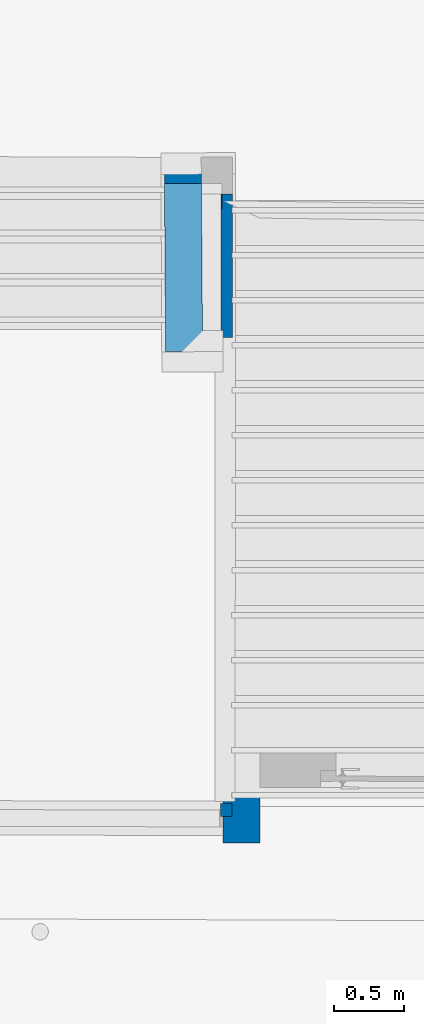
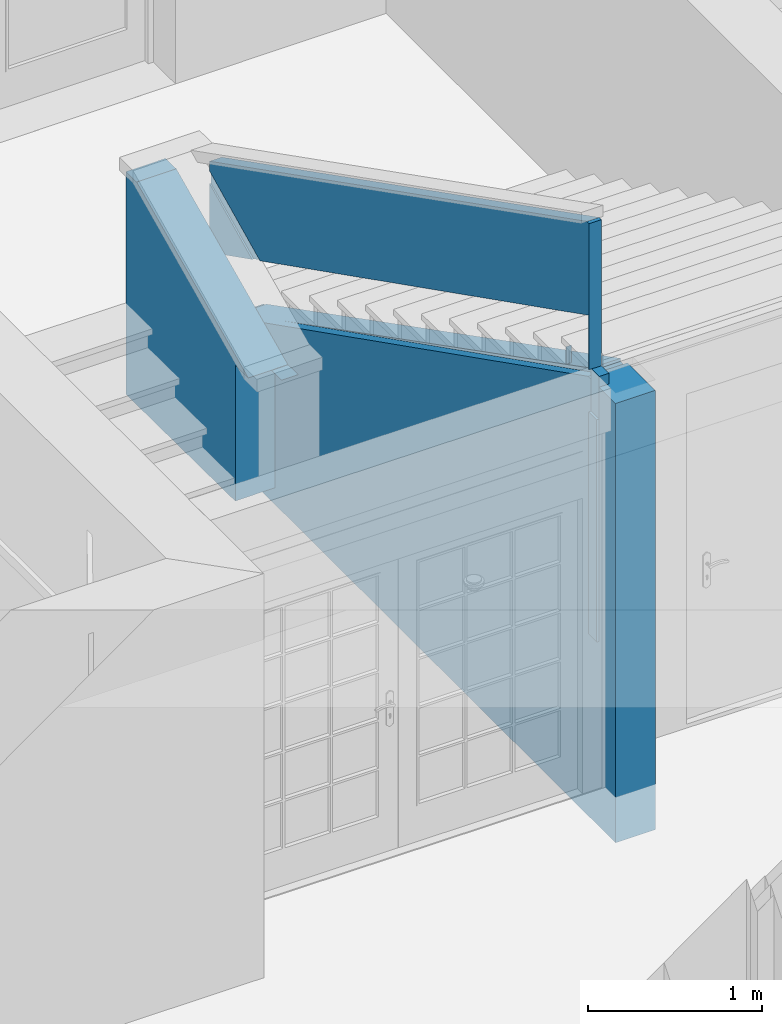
# One storey, part 91 of 196: 3 walls.
"""IFC2X3 building model written with IfcOpenShell, lengths in metres."""

import ifcopenshell
import ifcopenshell.guid

model = None  # the IFC model being written
_history = None  # IfcOwnerHistory: only IFC2X3 demands one
_inside = {}  # id of a spatial element -> (the spatial element, [elements in it])
_under = {}  # id of a project, library or spatial element -> (it, [spatial elements below it])
_declared = {}  # id of a project -> (the project, [libraries it declares])
_typed = {}  # id of a type object -> (the type object, [elements of that type])
_made_of = {}  # id of a material, layer set ... -> (it, [elements and type objects made of it])


def new_model(schema):
    """Start an empty IFC model of exactly this schema.

    Asked for "IFC4X3", IfcOpenShell would pick the latest addendum, in which some entities
    have other attributes; the version numbers below select the first issue.
    IFC2X3 requires an IfcOwnerHistory on every rooted entity: one is made here for all.
    """
    global model, _history
    if schema == "IFC4X3":
        model = ifcopenshell.file(schema_version=(4, 3, 0, 0))
    else:
        model = ifcopenshell.file(schema=schema)
    _inside.clear()
    _under.clear()
    _declared.clear()
    _typed.clear()
    _made_of.clear()
    _history = None
    if model.schema == "IFC2X3":
        org = make("IfcOrganization", Name="unknown")
        user = make(
            "IfcPersonAndOrganization",
            ThePerson=make("IfcPerson", FamilyName="unknown"),
            TheOrganization=org,
        )
        app = make(
            "IfcApplication",
            ApplicationDeveloper=org,
            Version="unknown",
            ApplicationFullName="unknown",
            ApplicationIdentifier="unknown",
        )
        _history = make(
            "IfcOwnerHistory",
            OwningUser=user,
            OwningApplication=app,
            ChangeAction="ADDED",
            CreationDate=0,
        )
    return model


def make(cls, **values):
    """One entity of the class cls with the attributes given. An attribute that is None is left unset."""
    return model.create_entity(
        cls, **{name: value for name, value in values.items() if value is not None}
    )


def entity(cls, *values):
    """Any entity or typed value of the class cls, its attributes in the order of the schema. None: left unset."""
    e = model.create_entity(cls)
    for i, value in enumerate(values):
        if value is not None:
            e[i] = value
    return e


def rooted(cls, **values):
    """An entity with a GlobalId (a new one), such as an element, a storey or a relation."""
    return make(cls, GlobalId=ifcopenshell.guid.new(), OwnerHistory=_history, **values)


def si_unit(unit_type, name, prefix=None):
    """IfcSIUnit, for example si_unit("LENGTHUNIT", "METRE", prefix="MILLI")."""
    return make("IfcSIUnit", UnitType=unit_type, Prefix=prefix, Name=name)


def converted_unit(unit_type, name, factor, base, dimensions=None, offset=None):
    """IfcConversionBasedUnit, such as the inch: factor (a typed value) times the base unit."""
    return make(
        "IfcConversionBasedUnit"
        if offset is None
        else "IfcConversionBasedUnitWithOffset",
        ConversionOffset=offset,
        Dimensions=None
        if dimensions is None
        else entity("IfcDimensionalExponents", *dimensions),
        UnitType=unit_type,
        Name=name,
        ConversionFactor=make(
            "IfcMeasureWithUnit", ValueComponent=factor, UnitComponent=base
        ),
    )


def derived_unit(unit_type, elements):
    """IfcDerivedUnit: a product of units, each with its exponent."""
    return make(
        "IfcDerivedUnit",
        Elements=[
            make("IfcDerivedUnitElement", Unit=unit, Exponent=power)
            for unit, power in elements
        ],
        UnitType=unit_type,
    )


def money_unit(currency):
    """IfcMonetaryUnit."""
    return make("IfcMonetaryUnit", Currency=currency)


def assignment(units):
    """IfcUnitAssignment: the units of a project."""
    return None if units is None else make("IfcUnitAssignment", Units=units)


def point(xyz):
    """IfcCartesianPoint."""
    return None if xyz is None else make("IfcCartesianPoint", Coordinates=xyz)


def direction(xyz):
    """IfcDirection."""
    return None if xyz is None else make("IfcDirection", DirectionRatios=xyz)


def frame(location, z_axis=None, x_axis=None):
    """IfcAxis2Placement3D, a coordinate frame: its origin and axes. An axis left out is left unset."""
    return make(
        "IfcAxis2Placement3D",
        Location=point(location),
        Axis=direction(z_axis),
        RefDirection=direction(x_axis),
    )


def origin_with_axes():
    """The frame at (0, 0, 0) with the z axis (0, 0, 1) and the x axis (1, 0, 0) written out."""
    return frame((0.0, 0.0, 0.0), z_axis=(0.0, 0.0, 1.0), x_axis=(1.0, 0.0, 0.0))


def place(relative_to, where):
    """IfcLocalPlacement: puts the frame where relative to a parent placement (None: the world)."""
    return make(
        "IfcLocalPlacement", PlacementRelTo=relative_to, RelativePlacement=where
    )


def context(
    kind, dimensions, precision=None, world=None, true_north=None, identifier=None
):
    """IfcGeometricRepresentationContext, for example the 3D "Model" context."""
    return make(
        "IfcGeometricRepresentationContext",
        ContextIdentifier=identifier,
        ContextType=kind,
        CoordinateSpaceDimension=dimensions,
        Precision=precision,
        WorldCoordinateSystem=world,
        TrueNorth=true_north,
    )


def subcontext(parent, identifier, kind, view, scale=None):
    """IfcGeometricRepresentationSubContext, for example "Body" below "Model"."""
    return make(
        "IfcGeometricRepresentationSubContext",
        ContextIdentifier=identifier,
        ContextType=kind,
        ParentContext=parent,
        TargetScale=scale,
        TargetView=view,
    )


def project(units=None, contexts=None):
    """IfcProject with its units and contexts."""
    return rooted(
        "IfcProject",
        Name="project",
        RepresentationContexts=contexts,
        UnitsInContext=assignment(units),
    )


def spatial(cls, under=None, at=None, **own):
    """A site, building, storey or space (cls), placed at a placement, below another one or the project."""
    s = rooted(cls, ObjectPlacement=at, **own)
    if under is not None:
        _under.setdefault(under.id(), (under, []))[1].append(s)
    return s


def polyline(points):
    """IfcPolyline through the points."""
    return make("IfcPolyline", Points=[point(p) for p in points])


def outline(outer, holes=None, kind="AREA"):
    """IfcArbitraryClosedProfileDef: a profile drawn as a closed curve; with holes, ...WithVoids."""
    if holes is None:
        return make("IfcArbitraryClosedProfileDef", ProfileType=kind, OuterCurve=outer)
    return make(
        "IfcArbitraryProfileDefWithVoids",
        ProfileType=kind,
        OuterCurve=outer,
        InnerCurves=holes,
    )


def extrude(swept, where, along, depth):
    """IfcExtrudedAreaSolid: the profile swept, set in the frame where, extruded along a direction by depth."""
    return make(
        "IfcExtrudedAreaSolid",
        SweptArea=swept,
        Position=where,
        ExtrudedDirection=direction(along),
        Depth=depth,
    )


def boolean(op, a, b):
    """IfcBooleanResult of two solids."""
    return make("IfcBooleanResult", Operator=op, FirstOperand=a, SecondOperand=b)


def faces_of(points, faces, orient=None, outer=None):
    """IfcFace entities. A face is a list of loops; a loop is a list of indices into points, from 0.

    orient and outer hold one flag for each loop. By default every Orientation is true, the
    first loop of a face is its IfcFaceOuterBound and the others are IfcFaceBound.
    """
    made = []
    for i, loops in enumerate(faces):
        bounds = []
        for j, loop in enumerate(loops):
            is_outer = j == 0 if outer is None else outer[i][j]
            bounds.append(
                make(
                    "IfcFaceOuterBound" if is_outer else "IfcFaceBound",
                    Bound=make("IfcPolyLoop", Polygon=[points[k] for k in loop]),
                    Orientation=True if orient is None else orient[i][j],
                )
            )
        made.append(make("IfcFace", Bounds=bounds))
    return made


def faceted_brep(points, faces, orient=None, outer=None, voids=None):
    """IfcFacetedBrep: a solid bounded by flat faces; with voids (closed shells), ...WithVoids."""
    shared = [point(p) for p in points]
    hull = make("IfcClosedShell", CfsFaces=faces_of(shared, faces, orient, outer))
    if voids is None:
        return make("IfcFacetedBrep", Outer=hull)
    return make(
        "IfcFacetedBrepWithVoids",
        Outer=hull,
        Voids=[
            make(cls, CfsFaces=faces_of(shared, fs, o, b)) for cls, fs, o, b in voids
        ],
    )


def shape(context_of_items, identifier, shape_type, items):
    """IfcShapeRepresentation: the items that make up one representation, for example the "Body"."""
    return make(
        "IfcShapeRepresentation",
        ContextOfItems=context_of_items,
        RepresentationIdentifier=identifier,
        RepresentationType=shape_type,
        Items=items,
    )


def material(Name=None, Category=None):
    """IfcMaterial."""
    return make("IfcMaterial", Name=Name, Category=Category)


def made_of(thing, what):
    """Note that an element or type object is made of a material, layer set ...; save() writes the relation."""
    if what is not None:
        _made_of.setdefault(what.id(), (what, []))[1].append(thing)
    return thing


def type_object(cls, material=None, **own):
    """A type object (cls), such as IfcWallType, which elements share."""
    return made_of(rooted(cls, **own), material)


def element(
    cls,
    number,
    at=None,
    inside=None,
    cuts=None,
    type_object=None,
    material=None,
    context=None,
    identifier="Body",
    shape_type=None,
    held_by="IfcProductDefinitionShape",
    body=None,
    shapes=None,
    **own,
):
    """One element of the class cls, such as IfcWall. Its Tag is "e" and its number.

    at: its placement. inside: the storey or other place that contains it. cuts: it is an
    opening in that element (IfcRelVoidsElement). A single representation is given by context,
    identifier, shape_type and body (its items); several are given by shapes. held_by: the class
    of the entity that holds the representations. save() writes the other relations.
    """
    e = rooted(cls, Tag="e%d" % number, ObjectPlacement=at, **own)
    if body is not None:
        shapes = [shape(context, identifier, shape_type, body)]
    if shapes is not None:
        e.Representation = make(held_by, Representations=shapes)
    if inside is not None:
        _inside.setdefault(inside.id(), (inside, []))[1].append(e)
    if cuts is not None:
        rooted(
            "IfcRelVoidsElement", RelatingBuildingElement=cuts, RelatedOpeningElement=e
        )
    if type_object is not None:
        _typed.setdefault(type_object.id(), (type_object, []))[1].append(e)
    return made_of(e, material)


def aggregate(whole, parts):
    """IfcRelAggregates: a whole, such as a stair, and the parts it consists of."""
    return rooted("IfcRelAggregates", RelatingObject=whole, RelatedObjects=parts)


def save(model, path):
    """Write the relations noted so far, then the file.

    IfcRelAggregates (storeys below a building ...), IfcRelContainedInSpatialStructure (elements
    in a storey), IfcRelDefinesByType, IfcRelAssociatesMaterial and IfcRelDeclares: one each for
    every whole, place, type object, material and project.
    """
    for whole, parts in _under.values():
        aggregate(whole, parts)
    for where, things in _inside.values():
        rooted(
            "IfcRelContainedInSpatialStructure",
            RelatedElements=things,
            RelatingStructure=where,
        )
    for kind, things in _typed.values():
        rooted("IfcRelDefinesByType", RelatedObjects=things, RelatingType=kind)
    for what, things in _made_of.values():
        rooted("IfcRelAssociatesMaterial", RelatedObjects=things, RelatingMaterial=what)
    for by, libraries in _declared.values():
        rooted("IfcRelDeclares", RelatingContext=by, RelatedDefinitions=libraries)
    model.write(path)


model = new_model("IFC2X3")

# Units and contexts
model_context = context("Model", 3, precision=1e-05, world=origin_with_axes(), true_north=direction((0.0, 1.0)))
body_context = subcontext(model_context, "Body", "Model", "MODEL_VIEW")
ifc_project = project(units=[si_unit("LENGTHUNIT", "METRE"), si_unit("AREAUNIT", "SQUARE_METRE"), si_unit("VOLUMEUNIT", "CUBIC_METRE"), converted_unit("PLANEANGLEUNIT", "DEGREE", entity("IfcPlaneAngleMeasure", 0.0174532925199), si_unit("PLANEANGLEUNIT", "RADIAN"), dimensions=[0, 0, 0, 0, 0, 0, 0]), money_unit("EUR"), converted_unit("TIMEUNIT", "Year", entity("IfcTimeMeasure", 31556926.0), si_unit("TIMEUNIT", "SECOND"), dimensions=[0, 0, 1, 0, 0, 0, 0]), si_unit("MASSUNIT", "GRAM", prefix="KILO"), si_unit("THERMODYNAMICTEMPERATUREUNIT", "DEGREE_CELSIUS"), si_unit("LUMINOUSINTENSITYUNIT", "LUMEN"), si_unit("ENERGYUNIT", "JOULE", prefix="MEGA"), derived_unit("THERMALCONDUCTANCEUNIT", [(si_unit("POWERUNIT", "WATT"), 1), (si_unit("LENGTHUNIT", "METRE"), -1), (si_unit("THERMODYNAMICTEMPERATUREUNIT", "KELVIN"), -1)]), derived_unit("SPECIFICHEATCAPACITYUNIT", [(si_unit("ENERGYUNIT", "JOULE"), 1), (si_unit("MASSUNIT", "GRAM", prefix="KILO"), -1), (si_unit("THERMODYNAMICTEMPERATUREUNIT", "KELVIN"), -1)]), derived_unit("MASSDENSITYUNIT", [(si_unit("MASSUNIT", "GRAM", prefix="KILO"), 1), (si_unit("VOLUMEUNIT", "CUBIC_METRE"), -1)])], contexts=[model_context])

# Site, building, storey
site_placement = place(None, origin_with_axes())
site = spatial("IfcSite", under=ifc_project, at=site_placement, Name="Gelände", CompositionType="ELEMENT")
building_placement = place(site_placement, origin_with_axes())
building = spatial("IfcBuilding", under=site, at=building_placement, Name="Gebäude", CompositionType="ELEMENT")
storey_placement = place(building_placement, frame((0.0, 0.0, -3.0), z_axis=(0.0, 0.0, 1.0), x_axis=(1.0, 0.0, 0.0)))
storey = spatial("IfcBuildingStorey", under=building, at=storey_placement, Name="KELLERGESCHOSS", CompositionType="ELEMENT", Elevation=-3.0)

# Walls
ifc_material_1 = material(Name="05_ALLGEMEIN - TRAGENDE BAUTEILE")
wall_type_1 = type_object("IfcWallType", Name="05_ALLGEMEIN - TRAGENDE BAUTEILE 264", PredefinedType="ELEMENTEDWALL")
wall_1_placement = place(storey_placement, frame((-6.92928317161, 19.8210692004, -0.36), z_axis=(0.0, 0.0, 1.0), x_axis=(0.0, 1.0, 0.0)))
element("IfcWall", 1, at=wall_1_placement, inside=storey, type_object=wall_type_1, material=ifc_material_1, Name="Wand-038", ObjectType="ELEMENTEDWALL", context=body_context, shape_type="CSG", body=[
    boolean("DIFFERENCE", boolean("DIFFERENCE", boolean("DIFFERENCE", extrude(outline(polyline([(0.0, 0.0), (4.58134705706, 0.0), (4.58134705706, 0.263583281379), (0.0, 0.263583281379), (0.0, 0.0)])), origin_with_axes(), (0.0, 0.0, 1.0), 3.07520246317), faceted_brep([(3.35965650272, 0.263583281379, 1.27333389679), (3.35965650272, 0.263583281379, 1.36236621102), (3.50465704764, 0.263583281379, 1.36236910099), (3.50465704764, 0.263583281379, 1.27333678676), (3.35965837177, 0.262901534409, 1.27333885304), (3.35965837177, 0.262901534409, 1.36237116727), (3.50465782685, 0.263299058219, 1.36237116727), (3.50465782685, 0.263299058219, 1.27333885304)], [[[0, 1, 2, 3]], [[1, 0, 4, 5]], [[2, 1, 5, 6]], [[3, 2, 6, 7]], [[0, 3, 7, 4]], [[4, 7, 6, 5]]])), faceted_brep([(0.297759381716, 0.263147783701, 3.07520246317), (0.29776015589, 0.263583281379, 3.07520246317), (0.0527778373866, 0.263583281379, 3.07520246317), (0.297759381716, 0.263147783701, 2.8524074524), (0.29776015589, 0.263583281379, 2.8524074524), (0.0527778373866, 0.263583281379, 2.8524074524)], [[[0, 1, 2]], [[1, 0, 3, 4]], [[5, 2, 1, 4]], [[0, 2, 5, 3]], [[5, 4, 3]]])), faceted_brep([(4.45778222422, 0.0, 0.975573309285), (4.45778222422, 0.0, 0.954859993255), (4.49389862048, 0.0, 0.954859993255), (4.49389862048, 0.0, 0.0), (4.58134705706, 0.0, 0.0), (4.58134705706, 0.0, 3.07520246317), (0.318987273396, 0.0, 3.07520246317), (0.318987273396, 0.0, 3.03714285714), (0.396712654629, 0.0, 3.03714285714), (0.396712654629, 0.0, 3.05884621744), (0.439020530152, 0.0, 3.03714285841), (0.640184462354, 0.0, 2.93394852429), (0.678514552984, 0.0, 2.91428571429), (0.756489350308, 0.0, 2.87428571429), (0.961381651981, 0.0, 2.76917877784), (0.99598337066, 0.0, 2.75142857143), (1.07395816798, 0.0, 2.71142857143), (1.282578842, 0.0, 2.60440903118), (1.31345218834, 0.0, 2.58857142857), (1.39142698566, 0.0, 2.54857142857), (1.60377603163, 0.0, 2.43963928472), (1.63092100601, 0.0, 2.42571428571), (1.70889580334, 0.0, 2.38571428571), (1.92497322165, 0.0, 2.27486953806), (1.94838982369, 0.0, 2.26285714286), (2.02636462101, 0.0, 2.22285714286), (2.24617041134, 0.0, 2.11009979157), (2.26585864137, 0.0, 2.1), (2.34383343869, 0.0, 2.06), (2.56736760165, 0.0, 1.94533004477), (2.58332745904, 0.0, 1.93714285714), (2.66130225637, 0.0, 1.89714285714), (2.88856479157, 0.0, 1.78056029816), (2.90079627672, 0.0, 1.77428571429), (2.97877107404, 0.0, 1.73428571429), (3.20976198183, 0.0, 1.61579055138), (3.21826509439, 0.0, 1.61142857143), (3.29623989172, 0.0, 1.57142857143), (3.53095917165, 0.0, 1.45102080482), (3.53573391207, 0.0, 1.44857142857), (3.6137087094, 0.0, 1.40857142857), (3.85215636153, 0.0, 1.28625105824), (3.85320270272, 0.0, 1.28571429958), (3.93117746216, 0.0, 1.24571431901), (4.17335355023, 0.0, 1.12148131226), (4.24864631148, 0.0, 1.08285715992), (4.45778222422, 0.198841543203, 0.976657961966), (4.45778222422, 0.198841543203, 0.980569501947), (4.45778222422, 0.263583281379, 0.980581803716), (4.45778222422, 0.263583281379, 0.954859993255), (4.50867719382, 0.263583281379, 0.954859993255), (4.5086518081, 0.196063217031, 0.954859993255), (4.49389862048, 0.196092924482, 0.954859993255), (4.49389862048, 0.196092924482, 0.0), (4.58043472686, 0.195918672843, 0.0), (4.58134705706, 0.263583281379, 0.0), (4.58134705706, 0.263583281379, 0.918133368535), (4.58134705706, 0.263583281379, 3.07520246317), (0.31906171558, 0.197439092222, 3.07520246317), (0.313219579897, 0.263583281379, 3.07520246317), (0.313194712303, 0.197441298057, 3.07520246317), (0.31906171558, 0.197439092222, 3.07223733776), (0.319062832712, 0.200402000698, 3.07223733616), (0.319062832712, 0.200402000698, 3.03714285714), (0.359062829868, 0.20038691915, 3.03714285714), (0.388503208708, 0.200375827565, 3.03714285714), (0.388502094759, 0.19741298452, 3.03714285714), (0.397776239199, 0.197409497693, 3.03714285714), (0.397776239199, 0.197409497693, 3.05937745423), (0.441119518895, 0.197393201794, 3.0371428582), (0.640258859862, 0.197318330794, 2.93498670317), (0.680258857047, 0.197303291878, 2.914467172), (0.680245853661, 0.16281509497, 2.91428571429), (0.680612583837, 0.197303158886, 2.91428571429), (0.758587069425, 0.197273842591, 2.87428571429), (0.961456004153, 0.197197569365, 2.77021632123), (0.998080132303, 0.197183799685, 2.75142857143), (1.07605461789, 0.197154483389, 2.71142857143), (1.28265314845, 0.197076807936, 2.60544593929), (1.31554768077, 0.197064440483, 2.58857142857), (1.39352216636, 0.197035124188, 2.54857142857), (1.60385029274, 0.196956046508, 2.44067555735), (1.63301522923, 0.196945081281, 2.42571428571), (1.71098971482, 0.196915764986, 2.38571428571), (1.92504743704, 0.196835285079, 2.27590517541), (1.9504827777, 0.196825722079, 2.26285714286), (2.02845726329, 0.196796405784, 2.22285714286), (2.24624458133, 0.19671452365, 2.11113479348), (2.26795032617, 0.196706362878, 2.1), (2.34592481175, 0.196677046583, 2.06), (2.56744172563, 0.196593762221, 1.94636441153), (2.58541787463, 0.196587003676, 1.93714285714), (2.66339236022, 0.196557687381, 1.89714285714), (2.88863886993, 0.196473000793, 1.7815940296), (2.9028854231, 0.196467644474, 1.77428571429), (2.98085990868, 0.196438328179, 1.73428571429), (3.20983601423, 0.196352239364, 1.61682364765), (3.22035297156, 0.196348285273, 1.61142857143), (3.29832745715, 0.196318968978, 1.57142857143), (3.53103315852, 0.196231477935, 1.45205326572), (3.53782052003, 0.196228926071, 1.44857142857), (3.61579500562, 0.196199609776, 1.40857142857), (3.85223030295, 0.196110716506, 1.28728288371), (3.85528798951, 0.196109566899, 1.28571432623), (3.93326248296, 0.196080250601, 1.2457143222), (3.94093463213, 0.196077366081, 1.24177859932), (3.94223141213, 0.199035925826, 1.24112950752), (4.17342856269, 0.198948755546, 1.1225280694), (4.21342855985, 0.198933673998, 1.10200853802), (4.25076157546, 0.198924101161, 1.08285716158), (4.2634285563, 0.198914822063, 1.07635912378), (4.2634285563, 0.198914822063, 1.07879392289), (4.25076157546, 0.198924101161, 1.08519569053), (4.21342855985, 0.198933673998, 1.10406342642), (0.359062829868, 0.20038691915, 3.05202173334), (4.58047351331, 0.19879533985, 0.918562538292), (4.5682291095, 0.198800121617, 0.92475073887), (4.5681987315, 0.195943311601, 0.924765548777), (4.5681987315, 0.195943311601, 0.920000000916), (4.58043472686, 0.195918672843, 0.913722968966), (4.58047351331, 0.19879533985, 0.913718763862), (0.680612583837, 0.197303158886, 3.03714285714), (0.680258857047, 0.197303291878, 3.03714285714), (0.680245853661, 0.16281509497, 3.03714285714), (4.5682291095, 0.198800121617, 0.920000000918)], [[[0, 1, 2, 3, 4, 5, 6, 7, 8, 9, 10, 11, 12, 13, 14, 15, 16, 17, 18, 19, 20, 21, 22, 23, 24, 25, 26, 27, 28, 29, 30, 31, 32, 33, 34, 35, 36, 37, 38, 39, 40, 41, 42, 43, 44, 45]], [[1, 0, 46, 47, 48, 49]], [[2, 1, 49, 50, 51, 52]], [[3, 2, 52, 53]], [[54, 55, 4, 3, 53]], [[55, 56, 57, 5, 4]], [[58, 6, 5, 57, 59, 60]], [[7, 6, 58, 61, 62, 63]], [[8, 7, 63, 64, 65, 66, 67]], [[9, 8, 67, 68]], [[10, 9, 68, 69]], [[11, 10, 69, 70]], [[12, 11, 70, 71, 72]], [[13, 12, 72, 73, 74]], [[14, 13, 74, 75]], [[15, 14, 75, 76]], [[16, 15, 76, 77]], [[17, 16, 77, 78]], [[18, 17, 78, 79]], [[19, 18, 79, 80]], [[20, 19, 80, 81]], [[21, 20, 81, 82]], [[22, 21, 82, 83]], [[23, 22, 83, 84]], [[24, 23, 84, 85]], [[25, 24, 85, 86]], [[26, 25, 86, 87]], [[27, 26, 87, 88]], [[28, 27, 88, 89]], [[29, 28, 89, 90]], [[30, 29, 90, 91]], [[31, 30, 91, 92]], [[32, 31, 92, 93]], [[33, 32, 93, 94]], [[34, 33, 94, 95]], [[35, 34, 95, 96]], [[36, 35, 96, 97]], [[37, 36, 97, 98]], [[38, 37, 98, 99]], [[39, 38, 99, 100]], [[40, 39, 100, 101]], [[41, 40, 101, 102]], [[42, 41, 102, 103]], [[43, 42, 103, 104]], [[44, 43, 104, 105, 106, 107]], [[45, 44, 107, 108, 109]], [[0, 45, 109, 110, 46]], [[110, 111, 47, 46]], [[60, 59, 48, 47, 111, 112, 113, 106, 105, 66, 65, 114, 62, 61]], [[48, 59, 57, 56, 50, 49]], [[50, 56, 115, 116, 117, 51]], [[54, 53, 52, 51, 117, 118, 119]], [[55, 54, 119, 120, 115, 56]], [[58, 60, 61]], [[64, 63, 62, 114]], [[64, 114, 65]], [[103, 102, 101, 100, 99, 98, 97, 96, 95, 94, 93, 92, 91, 90, 89, 88, 87, 86, 85, 84, 83, 82, 81, 80, 79, 78, 77, 76, 75, 74, 73, 121, 122, 71, 70, 69, 68, 67, 66, 105, 104]], [[123, 72, 71, 122]], [[72, 123, 121, 73]], [[108, 107, 106, 113]], [[109, 108, 113, 112]], [[110, 109, 112, 111]], [[124, 116, 115, 120]], [[124, 118, 117, 116]], [[124, 120, 119, 118]], [[123, 122, 121]]])),
])
wall_2_placement = place(storey_placement, frame((-7.59983990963, 23.2094093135, -0.1), z_axis=(0.0, 0.0, 1.0), x_axis=(-0.00729003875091, 0.999973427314, 0.0)))
element("IfcWall", 2, at=wall_2_placement, inside=storey, type_object=wall_type_1, material=ifc_material_1, Name="Wand-039", ObjectType="ELEMENTEDWALL", context=body_context, shape_type="CSG", body=[
    boolean("DIFFERENCE", extrude(outline(polyline([(0.0, -0.263583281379), (1.50273640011, -0.263583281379), (1.50273640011, 0.0), (0.0, 0.0), (0.0, -0.263583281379)])), origin_with_axes(), (0.0, 0.0, 1.0), 1.70745696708), faceted_brep([(1.38114913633, 0.0, 1.61872908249), (1.38114913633, 0.0, 1.6187089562), (0.116815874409, 0.0, 1.01149196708), (0.263587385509, 0.0, 1.01149196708), (0.263587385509, 0.0, 0.06), (1.50273640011, 0.0, 0.06), (1.50273640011, 0.0, 0.0), (0.0, 0.0, 0.0), (0.0, 0.0, 1.70745696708), (1.50273640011, 0.0, 1.70745696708), (1.50273640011, 0.0, 1.61872880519), (1.38042240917, -0.263583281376, 1.61894711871), (1.38042240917, -0.263583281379, 1.6187089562), (0.116089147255, -0.263583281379, 1.01149196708), (0.265058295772, -0.263583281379, 1.01149196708), (0.265058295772, -0.263583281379, 0.06), (1.50239406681, -0.263583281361, 0.06), (1.50273640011, -0.263583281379, 1.70745696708), (1.50273640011, -0.263583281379, 0.0), (0.0, -0.263583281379, 0.0), (0.0, -0.263583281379, 1.01149196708), (0.0, -0.15353127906, 1.01149196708), (0.0, -0.263583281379, 1.01229202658), (0.0, -0.263583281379, 1.70745696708), (1.50239408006, -0.263583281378, 1.61894684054), (0.113927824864, -0.263583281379, 1.01149196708), (0.113927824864, -0.263583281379, 1.01228825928), (0.114229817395, -0.154050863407, 1.01149196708)], [[[0, 1, 2, 3, 4, 5, 6, 7, 8, 9, 10]], [[11, 12, 1, 0]], [[12, 13, 2, 1]], [[13, 14, 3, 2]], [[14, 15, 4, 3]], [[15, 16, 5, 4]], [[5, 10, 9, 17, 18, 6]], [[18, 19, 7, 6]], [[20, 21, 22, 23, 8, 7, 19]], [[8, 23, 17, 9]], [[24, 11, 0, 10]], [[25, 20, 19, 18, 17, 23, 22, 26], [15, 14, 13, 12, 11, 24, 16]], [[16, 24, 10, 5]], [[21, 20, 25, 27]], [[26, 22, 21, 27]], [[25, 26, 27]]])),
])
ifc_material_2 = material(Name="01_ALLGEMEIN - BAUTEIL")
wall_type_2 = type_object("IfcWallType", Name="01_ALLGEMEIN - BAUTEIL 82", PredefinedType="ELEMENTEDWALL")
wall_3_placement = place(storey_placement, frame((-7.12503113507, 24.715016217, 0.936490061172), z_axis=(0.0, 0.0, 1.0), x_axis=(-0.000374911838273, -0.999999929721, 0.0)))
element("IfcWall", 3, at=wall_3_placement, inside=storey, type_object=wall_type_2, material=ifc_material_2, Name="Wand-038", ObjectType="ELEMENTEDWALL", context=body_context, shape_type="CSG", body=[
    boolean("DIFFERENCE", extrude(outline(polyline([(0.0, -0.0820226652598), (4.70575181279, -0.0820226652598), (4.70575181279, 0.0), (0.0, 0.0), (0.0, -0.0820226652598)])), origin_with_axes(), (0.0, 0.0, 1.0), 2.87656200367), faceted_brep([(0.262313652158, -0.0820226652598, 0.670966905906), (4.59330953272, -0.0820226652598, 2.87656200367), (0.0, -0.0820226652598, 2.87656200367), (0.0, -0.0820226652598, 0.0), (4.61407640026, -0.0820226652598, 0.0), (4.61407640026, -0.0820226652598, 1.55591739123), (4.70572106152, -0.0820226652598, 1.55591739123), (4.70572106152, -0.0820226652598, 0.0), (4.70575181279, -0.0820226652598, 0.0), (4.70575181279, -0.0820226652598, 2.87656200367), (4.61870104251, -0.0820226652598, 2.87656200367), (4.61870104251, -0.0820226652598, 1.85351183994), (4.61407640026, -0.0820226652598, 1.85351183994), (4.61407640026, -0.0820226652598, 2.23202624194), (0.841855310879, -0.0820226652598, 0.325583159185), (0.264110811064, -0.0820226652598, 0.603052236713), (0.264110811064, -0.0820226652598, 0.670966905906), (0.751815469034, -0.0820226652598, 0.280077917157), (0.264110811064, -0.0820226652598, 0.0335968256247), (0.264110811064, -0.0820226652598, 0.514304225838), (0.262313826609, 0.0, 0.670966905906), (4.59330970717, 0.0, 2.87656200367), (0.0, 0.0, 2.87656200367), (0.0, 0.0, 0.0), (4.61407648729, 0.0, 0.0), (4.61407648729, 0.0, 2.23202624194), (4.61407641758, -0.0657017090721, 1.85351183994), (4.61407641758, -0.0657017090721, 1.55591739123), (4.70572106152, -0.065830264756, 1.55591739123), (4.70572106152, 0.0, 1.85351183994), (4.70572106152, 0.0, 0.0), (4.70572106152, -0.065830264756, 1.85351183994), (4.70575181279, 0.0, 0.0), (4.70575181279, 0.0, 2.87656200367), (4.61867029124, 0.0, 2.87656200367), (4.61867029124, 0.0, 1.85351183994), (4.61869492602, -0.0657081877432, 1.85351183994), (0.263588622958, 0.0, 0.0333328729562), (0.751787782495, -0.0704425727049, 0.280063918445), (0.841826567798, -0.070000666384, 0.325568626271), (0.264052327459, -0.0728363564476, 0.603058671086), (0.263588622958, 0.0, 0.670966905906), (0.264052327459, -0.0728363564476, 0.514310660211)], [[[0, 1, 2, 3, 4, 5, 6, 7, 8, 9, 10, 11, 12, 13, 14, 15, 16], [17, 18, 19]], [[20, 21, 1, 0]], [[1, 21, 22, 2]], [[22, 23, 3, 2]], [[24, 4, 3, 23]], [[24, 25, 13, 12, 26, 27, 5, 4]], [[6, 5, 27, 28]], [[29, 30, 7, 6, 28, 31]], [[7, 30, 32, 8]], [[9, 8, 32, 33]], [[34, 10, 9, 33]], [[10, 34, 35, 36, 11]], [[12, 11, 36, 26]], [[25, 37, 18, 17, 38, 39, 14, 13]], [[15, 14, 39, 40]], [[37, 41, 16, 15, 40, 42, 19, 18]], [[41, 20, 0, 16]], [[17, 19, 42, 38]], [[25, 24, 23, 22, 21, 20, 41, 37]], [[27, 26, 36, 31, 28]], [[35, 34, 33, 32, 30, 29]], [[35, 29, 31, 36]], [[39, 38, 42, 40]]])),
])

save(model, "model.ifc")
